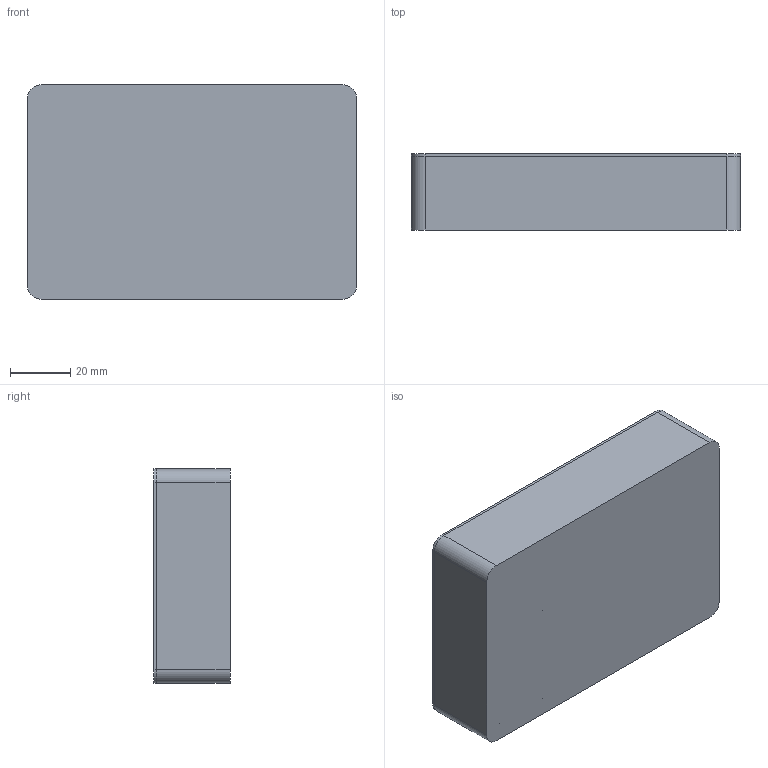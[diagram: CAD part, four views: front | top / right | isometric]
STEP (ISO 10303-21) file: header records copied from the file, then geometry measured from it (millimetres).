
FILE_DESCRIPTION(/* description */ (''),/* implementation_level */ '2;1');
FILE_NAME(/* name */ '新装配体_stp.stp',/* time_stamp */ '2026-07-21T15:38:59+08:00',/* author */ (''),/* organization */ (''),/* preprocessor_version */ 'ST-DEVELOPER v20.1',/* originating_system */ 'SIEMENS PLM Software NX2512.1700',/* authorisation */ '');
FILE_SCHEMA (('AUTOMOTIVE_DESIGN { 1 0 10303 214 3 1 1 1 }'));
Length unit declared in the file: millimetre
Products named in the file (3): 下壳.step; 上盖.step; 装配体_stp
Assembly tree (2 placements, depth 2):
  装配体_stp
    上盖.step
    下壳.step
Bounding box: 109 x 25.3 x 71 mm (x, y, z)
Volume: 80097.7 mm3; surface area: 47028.9 mm2
Topology: 2 solids, 6 shells, 129 faces, 384 edges, 252 vertices
Faces by surface type: plane 71, cylinder 50, cone 8
Entity records: 4434 total; most frequent: CARTESIAN_POINT 870, ORIENTED_EDGE 752, DIRECTION 708, EDGE_CURVE 376, VERTEX_POINT 252, LINE 248, VECTOR 248, AXIS2_PLACEMENT_3D 230
